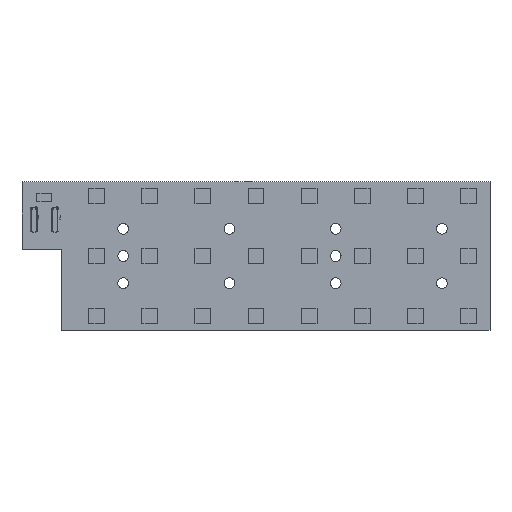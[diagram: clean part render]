
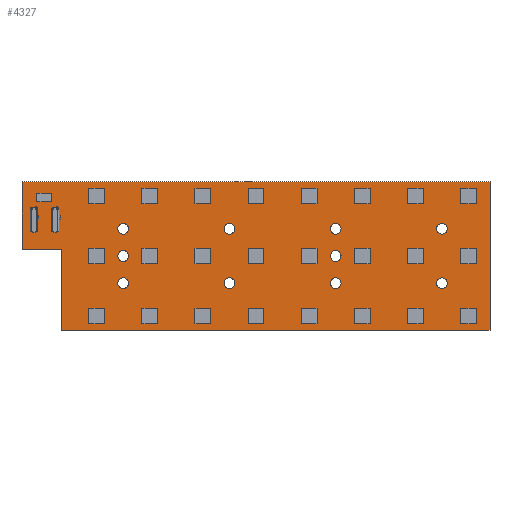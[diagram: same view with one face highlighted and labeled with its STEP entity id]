
A CAD part, top view. The second image highlights one B-rep face of the part: STEP entity #4327.
In plain terms, the highlighted planar face has unit normal (0, 0, 1).
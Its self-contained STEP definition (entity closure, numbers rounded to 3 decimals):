
#3774 = VERTEX_POINT('',#3775);
#3775 = CARTESIAN_POINT('',(0.,25.6,0.));
#3781 = EDGE_CURVE('',#3774,#3782,#3784,.T.);
#3782 = VERTEX_POINT('',#3783);
#3783 = CARTESIAN_POINT('',(12.5,25.6,0.));
#3784 = LINE('',#3785,#3786);
#3785 = CARTESIAN_POINT('',(0.,25.6,0.));
#3786 = VECTOR('',#3787,1.);
#3787 = DIRECTION('',(1.,0.,0.));
#3812 = EDGE_CURVE('',#3782,#3813,#3815,.T.);
#3813 = VERTEX_POINT('',#3814);
#3814 = CARTESIAN_POINT('',(12.5,0.,0.));
#3815 = LINE('',#3816,#3817);
#3816 = CARTESIAN_POINT('',(12.5,25.6,0.));
#3817 = VECTOR('',#3818,1.);
#3818 = DIRECTION('',(0.,-1.,0.));
#3843 = EDGE_CURVE('',#3813,#3844,#3846,.T.);
#3844 = VERTEX_POINT('',#3845);
#3845 = CARTESIAN_POINT('',(148.,0.,0.));
#3846 = LINE('',#3847,#3848);
#3847 = CARTESIAN_POINT('',(12.5,0.,0.));
#3848 = VECTOR('',#3849,1.);
#3849 = DIRECTION('',(1.,0.,0.));
#3874 = EDGE_CURVE('',#3844,#3875,#3877,.T.);
#3875 = VERTEX_POINT('',#3876);
#3876 = CARTESIAN_POINT('',(148.,47.,0.));
#3877 = LINE('',#3878,#3879);
#3878 = CARTESIAN_POINT('',(148.,0.,0.));
#3879 = VECTOR('',#3880,1.);
#3880 = DIRECTION('',(0.,1.,0.));
#3905 = EDGE_CURVE('',#3875,#3906,#3908,.T.);
#3906 = VERTEX_POINT('',#3907);
#3907 = CARTESIAN_POINT('',(0.,47.,0.));
#3908 = LINE('',#3909,#3910);
#3909 = CARTESIAN_POINT('',(148.,47.,0.));
#3910 = VECTOR('',#3911,1.);
#3911 = DIRECTION('',(-1.,0.,0.));
#3936 = EDGE_CURVE('',#3906,#3774,#3937,.T.);
#3937 = LINE('',#3938,#3939);
#3938 = CARTESIAN_POINT('',(0.,47.,0.));
#3939 = VECTOR('',#3940,1.);
#3940 = DIRECTION('',(0.,-1.,0.));
#3960 = VERTEX_POINT('',#3961);
#3961 = CARTESIAN_POINT('',(33.7,14.9,0.));
#3967 = EDGE_CURVE('',#3960,#3960,#3968,.T.);
#3968 = CIRCLE('',#3969,1.7);
#3969 = AXIS2_PLACEMENT_3D('',#3970,#3971,#3972);
#3970 = CARTESIAN_POINT('',(32.,14.9,0.));
#3971 = DIRECTION('',(0.,0.,1.));
#3972 = DIRECTION('',(1.,0.,0.));
#3993 = VERTEX_POINT('',#3994);
#3994 = CARTESIAN_POINT('',(67.3,14.9,0.));
#4000 = EDGE_CURVE('',#3993,#3993,#4001,.T.);
#4001 = CIRCLE('',#4002,1.7);
#4002 = AXIS2_PLACEMENT_3D('',#4003,#4004,#4005);
#4003 = CARTESIAN_POINT('',(65.6,14.9,0.));
#4004 = DIRECTION('',(0.,0.,1.));
#4005 = DIRECTION('',(1.,0.,0.));
#4026 = VERTEX_POINT('',#4027);
#4027 = CARTESIAN_POINT('',(33.7,23.5,0.));
#4033 = EDGE_CURVE('',#4026,#4026,#4034,.T.);
#4034 = CIRCLE('',#4035,1.7);
#4035 = AXIS2_PLACEMENT_3D('',#4036,#4037,#4038);
#4036 = CARTESIAN_POINT('',(32.,23.5,0.));
#4037 = DIRECTION('',(0.,0.,1.));
#4038 = DIRECTION('',(1.,0.,0.));
#4059 = VERTEX_POINT('',#4060);
#4060 = CARTESIAN_POINT('',(67.3,32.1,0.));
#4066 = EDGE_CURVE('',#4059,#4059,#4067,.T.);
#4067 = CIRCLE('',#4068,1.7);
#4068 = AXIS2_PLACEMENT_3D('',#4069,#4070,#4071);
#4069 = CARTESIAN_POINT('',(65.6,32.1,0.));
#4070 = DIRECTION('',(0.,0.,1.));
#4071 = DIRECTION('',(1.,0.,0.));
#4092 = VERTEX_POINT('',#4093);
#4093 = CARTESIAN_POINT('',(33.7,32.1,0.));
#4099 = EDGE_CURVE('',#4092,#4092,#4100,.T.);
#4100 = CIRCLE('',#4101,1.7);
#4101 = AXIS2_PLACEMENT_3D('',#4102,#4103,#4104);
#4102 = CARTESIAN_POINT('',(32.,32.1,0.));
#4103 = DIRECTION('',(0.,0.,1.));
#4104 = DIRECTION('',(1.,0.,0.));
#4125 = VERTEX_POINT('',#4126);
#4126 = CARTESIAN_POINT('',(100.9,14.9,0.));
#4132 = EDGE_CURVE('',#4125,#4125,#4133,.T.);
#4133 = CIRCLE('',#4134,1.7);
#4134 = AXIS2_PLACEMENT_3D('',#4135,#4136,#4137);
#4135 = CARTESIAN_POINT('',(99.2,14.9,0.));
#4136 = DIRECTION('',(0.,0.,1.));
#4137 = DIRECTION('',(1.,0.,0.));
#4158 = VERTEX_POINT('',#4159);
#4159 = CARTESIAN_POINT('',(134.5,14.9,0.));
#4165 = EDGE_CURVE('',#4158,#4158,#4166,.T.);
#4166 = CIRCLE('',#4167,1.7);
#4167 = AXIS2_PLACEMENT_3D('',#4168,#4169,#4170);
#4168 = CARTESIAN_POINT('',(132.8,14.9,0.));
#4169 = DIRECTION('',(0.,0.,1.));
#4170 = DIRECTION('',(1.,0.,0.));
#4191 = VERTEX_POINT('',#4192);
#4192 = CARTESIAN_POINT('',(100.9,23.5,0.));
#4198 = EDGE_CURVE('',#4191,#4191,#4199,.T.);
#4199 = CIRCLE('',#4200,1.7);
#4200 = AXIS2_PLACEMENT_3D('',#4201,#4202,#4203);
#4201 = CARTESIAN_POINT('',(99.2,23.5,0.));
#4202 = DIRECTION('',(0.,0.,1.));
#4203 = DIRECTION('',(1.,0.,0.));
#4224 = VERTEX_POINT('',#4225);
#4225 = CARTESIAN_POINT('',(134.5,32.1,0.));
#4231 = EDGE_CURVE('',#4224,#4224,#4232,.T.);
#4232 = CIRCLE('',#4233,1.7);
#4233 = AXIS2_PLACEMENT_3D('',#4234,#4235,#4236);
#4234 = CARTESIAN_POINT('',(132.8,32.1,0.));
#4235 = DIRECTION('',(0.,0.,1.));
#4236 = DIRECTION('',(1.,0.,0.));
#4257 = VERTEX_POINT('',#4258);
#4258 = CARTESIAN_POINT('',(100.9,32.1,0.));
#4264 = EDGE_CURVE('',#4257,#4257,#4265,.T.);
#4265 = CIRCLE('',#4266,1.7);
#4266 = AXIS2_PLACEMENT_3D('',#4267,#4268,#4269);
#4267 = CARTESIAN_POINT('',(99.2,32.1,0.));
#4268 = DIRECTION('',(0.,0.,1.));
#4269 = DIRECTION('',(1.,0.,0.));
#4327 = ADVANCED_FACE('',(#4328,#4336,#4339,#4342,#4345,#4348,#4351,
    #4354,#4357,#4360,#4363),#4366,.T.);
#4328 = FACE_BOUND('',#4329,.T.);
#4329 = EDGE_LOOP('',(#4330,#4331,#4332,#4333,#4334,#4335));
#4330 = ORIENTED_EDGE('',*,*,#3781,.T.);
#4331 = ORIENTED_EDGE('',*,*,#3812,.T.);
#4332 = ORIENTED_EDGE('',*,*,#3843,.T.);
#4333 = ORIENTED_EDGE('',*,*,#3874,.T.);
#4334 = ORIENTED_EDGE('',*,*,#3905,.T.);
#4335 = ORIENTED_EDGE('',*,*,#3936,.T.);
#4336 = FACE_BOUND('',#4337,.T.);
#4337 = EDGE_LOOP('',(#4338));
#4338 = ORIENTED_EDGE('',*,*,#3967,.F.);
#4339 = FACE_BOUND('',#4340,.T.);
#4340 = EDGE_LOOP('',(#4341));
#4341 = ORIENTED_EDGE('',*,*,#4000,.F.);
#4342 = FACE_BOUND('',#4343,.T.);
#4343 = EDGE_LOOP('',(#4344));
#4344 = ORIENTED_EDGE('',*,*,#4033,.F.);
#4345 = FACE_BOUND('',#4346,.T.);
#4346 = EDGE_LOOP('',(#4347));
#4347 = ORIENTED_EDGE('',*,*,#4066,.F.);
#4348 = FACE_BOUND('',#4349,.T.);
#4349 = EDGE_LOOP('',(#4350));
#4350 = ORIENTED_EDGE('',*,*,#4099,.F.);
#4351 = FACE_BOUND('',#4352,.T.);
#4352 = EDGE_LOOP('',(#4353));
#4353 = ORIENTED_EDGE('',*,*,#4132,.F.);
#4354 = FACE_BOUND('',#4355,.T.);
#4355 = EDGE_LOOP('',(#4356));
#4356 = ORIENTED_EDGE('',*,*,#4165,.F.);
#4357 = FACE_BOUND('',#4358,.T.);
#4358 = EDGE_LOOP('',(#4359));
#4359 = ORIENTED_EDGE('',*,*,#4198,.F.);
#4360 = FACE_BOUND('',#4361,.T.);
#4361 = EDGE_LOOP('',(#4362));
#4362 = ORIENTED_EDGE('',*,*,#4231,.F.);
#4363 = FACE_BOUND('',#4364,.T.);
#4364 = EDGE_LOOP('',(#4365));
#4365 = ORIENTED_EDGE('',*,*,#4264,.F.);
#4366 = PLANE('',#4367);
#4367 = AXIS2_PLACEMENT_3D('',#4368,#4369,#4370);
#4368 = CARTESIAN_POINT('',(0.,25.6,0.));
#4369 = DIRECTION('',(0.,0.,1.));
#4370 = DIRECTION('',(1.,0.,0.));
